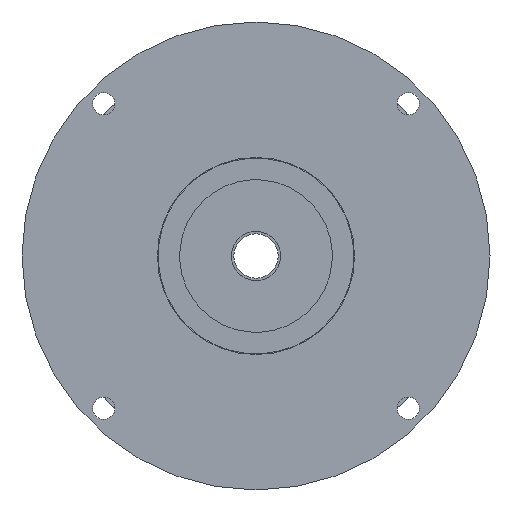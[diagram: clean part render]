
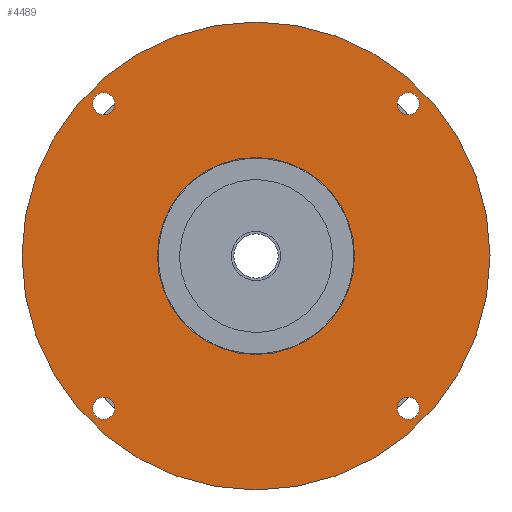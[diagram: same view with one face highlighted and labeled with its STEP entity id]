
A CAD part, left-side view. The second image highlights one B-rep face of the part: STEP entity #4489.
In plain terms, the highlighted planar face has unit normal (-1, 0, 0).
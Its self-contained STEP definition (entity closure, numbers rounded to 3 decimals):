
#217=FACE_BOUND('',#810,.T.);
#218=FACE_BOUND('',#811,.T.);
#219=FACE_BOUND('',#812,.T.);
#220=FACE_BOUND('',#813,.T.);
#221=FACE_BOUND('',#814,.T.);
#276=PLANE('',#4852);
#503=FACE_OUTER_BOUND('',#809,.T.);
#809=EDGE_LOOP('',(#3172));
#810=EDGE_LOOP('',(#3173));
#811=EDGE_LOOP('',(#3174));
#812=EDGE_LOOP('',(#3175));
#813=EDGE_LOOP('',(#3176));
#814=EDGE_LOOP('',(#3177));
#1145=CIRCLE('',#4810,4.5);
#1147=CIRCLE('',#4813,4.5);
#1149=CIRCLE('',#4816,4.5);
#1151=CIRCLE('',#4819,4.5);
#1153=CIRCLE('',#4822,95.);
#1169=CIRCLE('',#4851,40.);
#2012=VERTEX_POINT('',#7206);
#2014=VERTEX_POINT('',#7212);
#2016=VERTEX_POINT('',#7218);
#2018=VERTEX_POINT('',#7224);
#2020=VERTEX_POINT('',#7230);
#2034=VERTEX_POINT('',#7280);
#2432=EDGE_CURVE('',#2012,#2012,#1145,.T.);
#2435=EDGE_CURVE('',#2014,#2014,#1147,.T.);
#2438=EDGE_CURVE('',#2016,#2016,#1149,.T.);
#2441=EDGE_CURVE('',#2018,#2018,#1151,.T.);
#2444=EDGE_CURVE('',#2020,#2020,#1153,.T.);
#2467=EDGE_CURVE('',#2034,#2034,#1169,.T.);
#3172=ORIENTED_EDGE('',*,*,#2444,.F.);
#3173=ORIENTED_EDGE('',*,*,#2432,.T.);
#3174=ORIENTED_EDGE('',*,*,#2435,.T.);
#3175=ORIENTED_EDGE('',*,*,#2438,.T.);
#3176=ORIENTED_EDGE('',*,*,#2441,.T.);
#3177=ORIENTED_EDGE('',*,*,#2467,.T.);
#4489=ADVANCED_FACE('',(#503,#217,#218,#219,#220,#221),#276,.T.);
#4810=AXIS2_PLACEMENT_3D('',#7208,#5520,#5521);
#4813=AXIS2_PLACEMENT_3D('',#7214,#5527,#5528);
#4816=AXIS2_PLACEMENT_3D('',#7220,#5534,#5535);
#4819=AXIS2_PLACEMENT_3D('',#7226,#5541,#5542);
#4822=AXIS2_PLACEMENT_3D('',#7232,#5548,#5549);
#4851=AXIS2_PLACEMENT_3D('',#7282,#5613,#5614);
#4852=AXIS2_PLACEMENT_3D('',#7283,#5615,#5616);
#5520=DIRECTION('center_axis',(1.,0.,0.));
#5521=DIRECTION('ref_axis',(0.,0.,
-1.));
#5527=DIRECTION('center_axis',(1.,0.,0.));
#5528=DIRECTION('ref_axis',(0.,0.,
-1.));
#5534=DIRECTION('center_axis',(1.,0.,0.));
#5535=DIRECTION('ref_axis',(0.,0.,
-1.));
#5541=DIRECTION('center_axis',(1.,0.,0.));
#5542=DIRECTION('ref_axis',(0.,0.,
-1.));
#5548=DIRECTION('center_axis',(1.,0.,0.));
#5549=DIRECTION('ref_axis',(0.,0.,
-1.));
#5613=DIRECTION('center_axis',(1.,0.,0.));
#5614=DIRECTION('ref_axis',(0.,0.,
-1.));
#5615=DIRECTION('center_axis',(-1.,0.,0.));
#5616=DIRECTION('ref_axis',(0.,0.,1.));
#7206=CARTESIAN_POINT('',(-13.,-67.01,-67.974));
#7208=CARTESIAN_POINT('Origin',(-13.,-67.01,-72.474));
#7212=CARTESIAN_POINT('',(-13.,56.734,55.77));
#7214=CARTESIAN_POINT('Origin',(-13.,56.734,51.27));
#7218=CARTESIAN_POINT('',(-13.,-67.01,55.77));
#7220=CARTESIAN_POINT('Origin',(-13.,-67.01,51.27));
#7224=CARTESIAN_POINT('',(-13.,56.734,-67.974));
#7226=CARTESIAN_POINT('Origin',(-13.,56.734,-72.474));
#7230=CARTESIAN_POINT('',(-13.,-100.138,-10.602));
#7232=CARTESIAN_POINT('Origin',(-13.,-5.138,-10.602));
#7280=CARTESIAN_POINT('',(-13.,-45.138,-10.602));
#7282=CARTESIAN_POINT('Origin',(-13.,-5.138,-10.602));
#7283=CARTESIAN_POINT('Origin',(-13.,89.862,-10.602));
